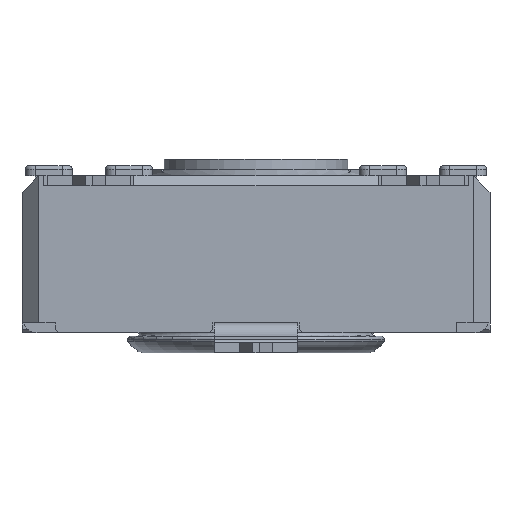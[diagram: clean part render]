
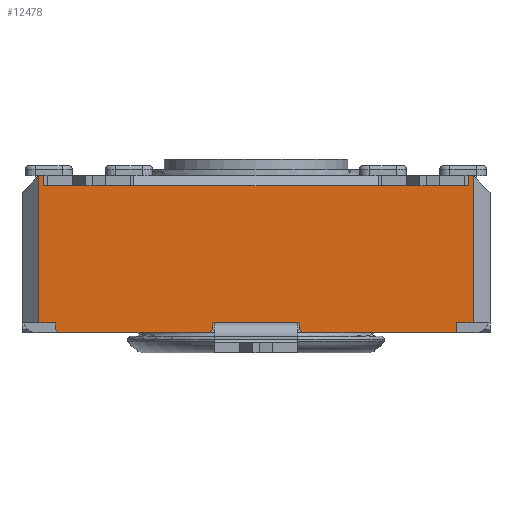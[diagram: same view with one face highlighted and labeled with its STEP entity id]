
A CAD part, front view. The second image highlights one B-rep face of the part: STEP entity #12478.
In plain terms, the highlighted planar face has unit normal (0, -1, 0).
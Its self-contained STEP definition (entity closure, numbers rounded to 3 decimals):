
#647=FACE_OUTER_BOUND('',#1312,.T.);
#1312=EDGE_LOOP('',(#8290,#8291,#8292,#8293,#8294,#8295,#8296,#8297,#8298,
#8299,#8300,#8301,#8302,#8303,#8304,#8305,#8306,#8307,#8308,#8309,#8310,
#8311,#8312,#8313,#8314,#8315,#8316));
#1987=LINE('',#17738,#3464);
#2000=LINE('',#17772,#3477);
#2005=LINE('',#17782,#3482);
#2083=LINE('',#17943,#3560);
#2108=LINE('',#17994,#3585);
#2134=LINE('',#18058,#3611);
#2135=LINE('',#18060,#3612);
#2136=LINE('',#18062,#3613);
#2137=LINE('',#18063,#3614);
#2138=LINE('',#18065,#3615);
#2139=LINE('',#18067,#3616);
#2140=LINE('',#18069,#3617);
#2141=LINE('',#18071,#3618);
#2142=LINE('',#18072,#3619);
#2143=LINE('',#18074,#3620);
#2144=LINE('',#18076,#3621);
#2145=LINE('',#18078,#3622);
#2146=LINE('',#18080,#3623);
#2147=LINE('',#18082,#3624);
#2148=LINE('',#18084,#3625);
#2149=LINE('',#18086,#3626);
#2150=LINE('',#18088,#3627);
#2151=LINE('',#18090,#3628);
#2152=LINE('',#18091,#3629);
#2153=LINE('',#18093,#3630);
#2154=LINE('',#18095,#3631);
#2155=LINE('',#18096,#3632);
#3464=VECTOR('',#14227,10.);
#3477=VECTOR('',#14266,10.);
#3482=VECTOR('',#14271,10.);
#3560=VECTOR('',#14375,10.);
#3585=VECTOR('',#14416,10.);
#3611=VECTOR('',#14464,10.);
#3612=VECTOR('',#14465,10.);
#3613=VECTOR('',#14466,10.);
#3614=VECTOR('',#14467,10.);
#3615=VECTOR('',#14468,10.);
#3616=VECTOR('',#14469,10.);
#3617=VECTOR('',#14470,10.);
#3618=VECTOR('',#14471,10.);
#3619=VECTOR('',#14472,10.);
#3620=VECTOR('',#14473,10.);
#3621=VECTOR('',#14474,10.);
#3622=VECTOR('',#14475,10.);
#3623=VECTOR('',#14476,10.);
#3624=VECTOR('',#14477,10.);
#3625=VECTOR('',#14478,10.);
#3626=VECTOR('',#14479,10.);
#3627=VECTOR('',#14480,10.);
#3628=VECTOR('',#14481,10.);
#3629=VECTOR('',#14482,10.);
#3630=VECTOR('',#14483,10.);
#3631=VECTOR('',#14484,10.);
#3632=VECTOR('',#14485,10.);
#4932=VERTEX_POINT('',#17716);
#4940=VERTEX_POINT('',#17737);
#4948=VERTEX_POINT('',#17771);
#4952=VERTEX_POINT('',#17779);
#4953=VERTEX_POINT('',#17781);
#5022=VERTEX_POINT('',#17940);
#5023=VERTEX_POINT('',#17942);
#5040=VERTEX_POINT('',#17991);
#5041=VERTEX_POINT('',#17993);
#5068=VERTEX_POINT('',#18057);
#5069=VERTEX_POINT('',#18059);
#5070=VERTEX_POINT('',#18061);
#5071=VERTEX_POINT('',#18064);
#5072=VERTEX_POINT('',#18066);
#5073=VERTEX_POINT('',#18068);
#5074=VERTEX_POINT('',#18070);
#5075=VERTEX_POINT('',#18073);
#5076=VERTEX_POINT('',#18075);
#5077=VERTEX_POINT('',#18077);
#5078=VERTEX_POINT('',#18079);
#5079=VERTEX_POINT('',#18081);
#5080=VERTEX_POINT('',#18083);
#5081=VERTEX_POINT('',#18085);
#5082=VERTEX_POINT('',#18087);
#5083=VERTEX_POINT('',#18089);
#5084=VERTEX_POINT('',#18092);
#5085=VERTEX_POINT('',#18094);
#6161=EDGE_CURVE('',#4932,#4940,#1987,.T.);
#6178=EDGE_CURVE('',#4948,#4932,#2000,.T.);
#6183=EDGE_CURVE('',#4953,#4952,#2005,.T.);
#6263=EDGE_CURVE('',#5023,#5022,#2083,.T.);
#6288=EDGE_CURVE('',#5041,#5040,#2108,.T.);
#6320=EDGE_CURVE('',#5022,#5068,#2134,.T.);
#6321=EDGE_CURVE('',#5068,#5069,#2135,.T.);
#6322=EDGE_CURVE('',#5069,#5070,#2136,.T.);
#6323=EDGE_CURVE('',#4953,#5070,#2137,.T.);
#6324=EDGE_CURVE('',#4952,#5071,#2138,.T.);
#6325=EDGE_CURVE('',#5072,#5071,#2139,.T.);
#6326=EDGE_CURVE('',#5072,#5073,#2140,.T.);
#6327=EDGE_CURVE('',#5074,#5073,#2141,.T.);
#6328=EDGE_CURVE('',#4948,#5074,#2142,.T.);
#6329=EDGE_CURVE('',#4940,#5075,#2143,.T.);
#6330=EDGE_CURVE('',#5075,#5076,#2144,.T.);
#6331=EDGE_CURVE('',#5077,#5076,#2145,.T.);
#6332=EDGE_CURVE('',#5077,#5078,#2146,.T.);
#6333=EDGE_CURVE('',#5078,#5079,#2147,.T.);
#6334=EDGE_CURVE('',#5079,#5080,#2148,.T.);
#6335=EDGE_CURVE('',#5081,#5080,#2149,.T.);
#6336=EDGE_CURVE('',#5081,#5082,#2150,.T.);
#6337=EDGE_CURVE('',#5082,#5083,#2151,.T.);
#6338=EDGE_CURVE('',#5083,#5041,#2152,.T.);
#6339=EDGE_CURVE('',#5040,#5084,#2153,.T.);
#6340=EDGE_CURVE('',#5085,#5084,#2154,.T.);
#6341=EDGE_CURVE('',#5085,#5023,#2155,.T.);
#8290=ORIENTED_EDGE('',*,*,#6263,.T.);
#8291=ORIENTED_EDGE('',*,*,#6320,.T.);
#8292=ORIENTED_EDGE('',*,*,#6321,.T.);
#8293=ORIENTED_EDGE('',*,*,#6322,.T.);
#8294=ORIENTED_EDGE('',*,*,#6323,.F.);
#8295=ORIENTED_EDGE('',*,*,#6183,.T.);
#8296=ORIENTED_EDGE('',*,*,#6324,.T.);
#8297=ORIENTED_EDGE('',*,*,#6325,.F.);
#8298=ORIENTED_EDGE('',*,*,#6326,.T.);
#8299=ORIENTED_EDGE('',*,*,#6327,.F.);
#8300=ORIENTED_EDGE('',*,*,#6328,.F.);
#8301=ORIENTED_EDGE('',*,*,#6178,.T.);
#8302=ORIENTED_EDGE('',*,*,#6161,.T.);
#8303=ORIENTED_EDGE('',*,*,#6329,.T.);
#8304=ORIENTED_EDGE('',*,*,#6330,.T.);
#8305=ORIENTED_EDGE('',*,*,#6331,.F.);
#8306=ORIENTED_EDGE('',*,*,#6332,.T.);
#8307=ORIENTED_EDGE('',*,*,#6333,.T.);
#8308=ORIENTED_EDGE('',*,*,#6334,.T.);
#8309=ORIENTED_EDGE('',*,*,#6335,.F.);
#8310=ORIENTED_EDGE('',*,*,#6336,.T.);
#8311=ORIENTED_EDGE('',*,*,#6337,.T.);
#8312=ORIENTED_EDGE('',*,*,#6338,.T.);
#8313=ORIENTED_EDGE('',*,*,#6288,.T.);
#8314=ORIENTED_EDGE('',*,*,#6339,.T.);
#8315=ORIENTED_EDGE('',*,*,#6340,.F.);
#8316=ORIENTED_EDGE('',*,*,#6341,.T.);
#11771=PLANE('',#13187);
#12478=ADVANCED_FACE('',(#647),#11771,.T.);
#13187=AXIS2_PLACEMENT_3D('',#18056,#14462,#14463);
#14227=DIRECTION('',(1.,0.,0.));
#14266=DIRECTION('',(1.,0.,0.));
#14271=DIRECTION('',(1.,0.,0.));
#14375=DIRECTION('',(-1.,0.,0.));
#14416=DIRECTION('',(-1.,0.,0.));
#14462=DIRECTION('center_axis',(0.,-1.,0.));
#14463=DIRECTION('ref_axis',(0.,0.,-1.));
#14464=DIRECTION('',(-1.,0.,0.));
#14465=DIRECTION('',(0.,0.,1.));
#14466=DIRECTION('',(-1.,0.,0.));
#14467=DIRECTION('',(0.,0.,1.));
#14468=DIRECTION('',(0.,0.,-1.));
#14469=DIRECTION('',(-0.707,0.,0.707));
#14470=DIRECTION('',(1.,0.,0.));
#14471=DIRECTION('',(-0.707,0.,-0.707));
#14472=DIRECTION('',(0.,0.,-1.));
#14473=DIRECTION('',(1.,0.,0.));
#14474=DIRECTION('',(0.,0.,-1.));
#14475=DIRECTION('',(-0.707,0.,0.707));
#14476=DIRECTION('',(1.,0.,0.));
#14477=DIRECTION('',(0.,0.,1.));
#14478=DIRECTION('',(1.,0.,0.));
#14479=DIRECTION('',(0.,0.,-1.));
#14480=DIRECTION('',(-1.,0.,0.));
#14481=DIRECTION('',(0.,0.,-1.));
#14482=DIRECTION('',(-1.,0.,0.));
#14483=DIRECTION('',(-1.,0.,0.));
#14484=DIRECTION('',(1.,0.,0.));
#14485=DIRECTION('',(-1.,0.,0.));
#17716=CARTESIAN_POINT('',(-8.717,-9.898,0.));
#17737=CARTESIAN_POINT('',(-6.217,-9.898,0.));
#17738=CARTESIAN_POINT('',(-14.467,-9.898,0.));
#17771=CARTESIAN_POINT('',(-8.767,-9.898,0.));
#17772=CARTESIAN_POINT('',(-14.467,-9.898,0.));
#17779=CARTESIAN_POINT('',(-13.467,-9.898,0.));
#17781=CARTESIAN_POINT('',(-13.967,-9.898,0.));
#17782=CARTESIAN_POINT('',(-7.245,-9.898,0.));
#17940=CARTESIAN_POINT('',(-13.717,-9.898,4.1));
#17942=CARTESIAN_POINT('',(-11.217,-9.898,4.1));
#17943=CARTESIAN_POINT('',(-6.467,-9.898,4.1));
#17991=CARTESIAN_POINT('',(-3.717,-9.898,4.1));
#17993=CARTESIAN_POINT('',(-1.217,-9.898,4.1));
#17994=CARTESIAN_POINT('',(-1.467,-9.898,4.1));
#18056=CARTESIAN_POINT('Origin',(-0.467,-9.898,0.));
#18057=CARTESIAN_POINT('',(-13.817,-9.898,4.1));
#18058=CARTESIAN_POINT('',(-3.944,-9.898,4.1));
#18059=CARTESIAN_POINT('',(-13.817,-9.898,4.4));
#18060=CARTESIAN_POINT('',(-13.817,-9.898,2.2));
#18061=CARTESIAN_POINT('',(-13.967,-9.898,4.4));
#18062=CARTESIAN_POINT('',(-14.467,-9.898,4.4));
#18063=CARTESIAN_POINT('',(-13.967,-9.898,0.));
#18064=CARTESIAN_POINT('',(-13.467,-9.898,-0.2));
#18065=CARTESIAN_POINT('',(-13.467,-9.898,-0.15));
#18066=CARTESIAN_POINT('',(-13.367,-9.898,-0.3));
#18067=CARTESIAN_POINT('',(-10.242,-9.898,-3.425));
#18068=CARTESIAN_POINT('',(-8.867,-9.898,-0.3));
#18069=CARTESIAN_POINT('',(-0.467,-9.898,-0.3));
#18070=CARTESIAN_POINT('',(-8.767,-9.898,-0.2));
#18071=CARTESIAN_POINT('',(-6.667,-9.898,1.9));
#18072=CARTESIAN_POINT('',(-8.767,-9.898,0.));
#18073=CARTESIAN_POINT('',(-6.167,-9.898,0.));
#18074=CARTESIAN_POINT('',(-14.467,-9.898,0.));
#18075=CARTESIAN_POINT('',(-6.167,-9.898,-0.2));
#18076=CARTESIAN_POINT('',(-6.167,-9.898,0.));
#18077=CARTESIAN_POINT('',(-6.067,-9.898,-0.3));
#18078=CARTESIAN_POINT('',(-4.767,-9.898,-1.6));
#18079=CARTESIAN_POINT('',(-1.467,-9.898,-0.3));
#18080=CARTESIAN_POINT('',(-0.467,-9.898,-0.3));
#18081=CARTESIAN_POINT('',(-1.467,-9.898,0.));
#18082=CARTESIAN_POINT('',(-1.467,-9.898,-0.15));
#18083=CARTESIAN_POINT('',(-0.967,-9.898,0.));
#18084=CARTESIAN_POINT('',(-0.646,-9.898,0.));
#18085=CARTESIAN_POINT('',(-0.967,-9.898,4.4));
#18086=CARTESIAN_POINT('',(-0.967,-9.898,0.));
#18087=CARTESIAN_POINT('',(-1.117,-9.898,4.4));
#18088=CARTESIAN_POINT('',(-14.467,-9.898,4.4));
#18089=CARTESIAN_POINT('',(-1.117,-9.898,4.1));
#18090=CARTESIAN_POINT('',(-1.117,-9.898,2.2));
#18091=CARTESIAN_POINT('',(-1.862,-9.898,4.1));
#18092=CARTESIAN_POINT('',(-3.817,-9.898,4.1));
#18093=CARTESIAN_POINT('',(-1.862,-9.898,4.1));
#18094=CARTESIAN_POINT('',(-11.117,-9.898,4.1));
#18095=CARTESIAN_POINT('',(-3.967,-9.898,4.1));
#18096=CARTESIAN_POINT('',(-3.944,-9.898,4.1));
